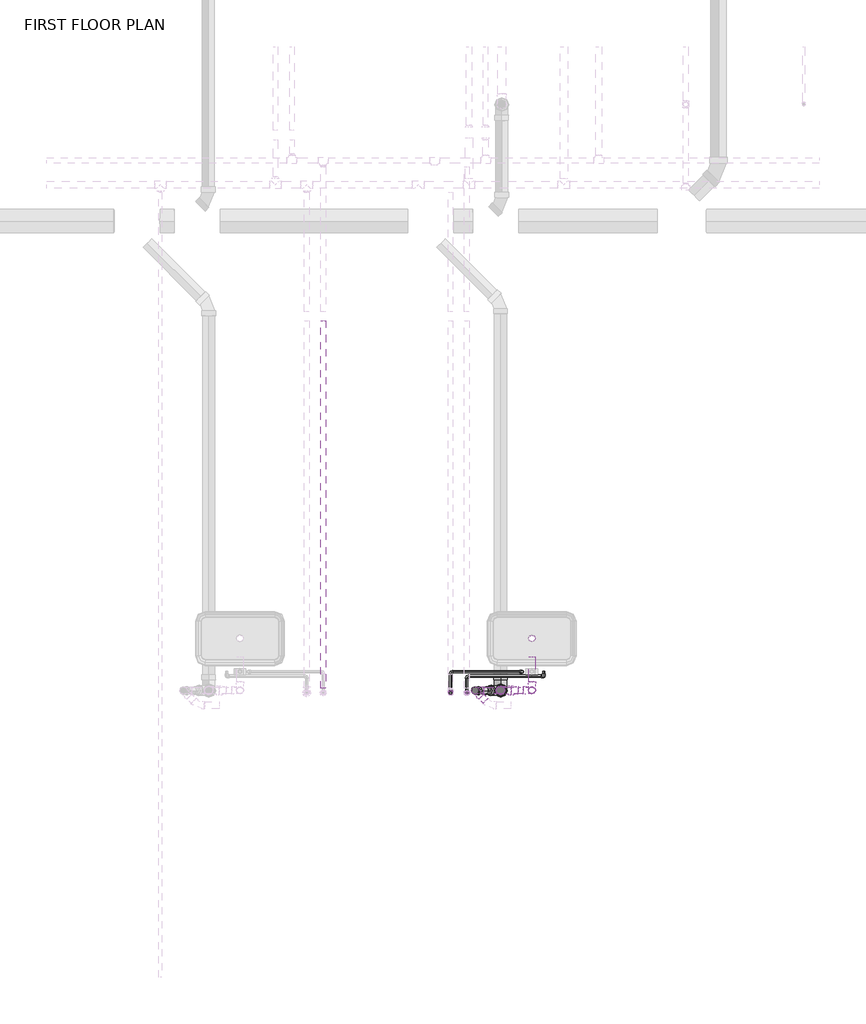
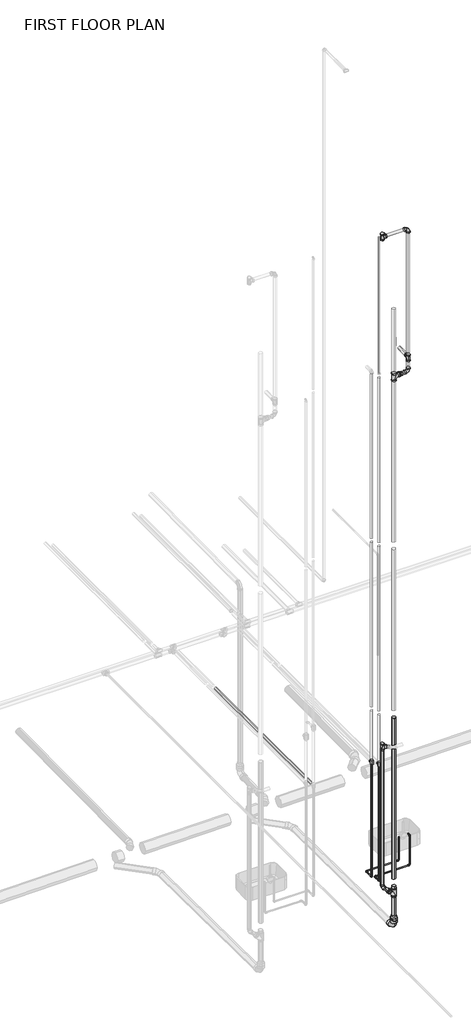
# One storey, part 11 of 29: 32 pipe segments, 23 pipe fittings.
"""IFC4 building model written with IfcOpenShell, lengths in millimetres."""

from ifc_helpers import new_model, si_unit, point, frame, frame_2d, origin, place, context, project, spatial, circle_curve, trimmed, segment, composite_curve, outline, extrude, transform, mapped, element, save
from ifc_brep_helpers import plane_surface, cylinder_surface, advanced_brep
from components import bend_pvc_sch_40_dwv_standard_ddf7f1b2, bend_pvc_sch_40_dwv_standard_80f96eb1, bend_pvc_sch_40_dwv_standard_35af41d9, bend_pvc_sch_40_dwv_standard_07560f8e, ges_wye_45_deg_threaded_mi_class_150_cast_iron_sanitary_c88a242e, pipe_elbow_copper_k_aad62f2d, pipe_elbow_copper_k_69a8f9be, pipe_elbow_copper_k_b9f4c2fc, pipe_tee_copper_k_60c871d1, pipe_transition_copper_k_4b29cc47, pipe_transition_copper_k_2a5e9307, reducer_pvc_sch_40_dwv_standard_b23fa098, reducer_pvc_sch_40_dwv_standard_f8e5081b, tee_sanitary_pvc_sch_40_dwv_standard_63ee02c0, tee_sanitary_pvc_sch_40_dwv_standard_3578d342, tee_sanitary_pvc_sch_40_dwv_standard_31acfb72, tee_sanitary_pvc_sch_40_dwv_standard_70a8f0c3

model = new_model("IFC4")

# Units and contexts
model_context = context("Model", 3, world=origin())
ifc_project = project(units=[si_unit("LENGTHUNIT", "METRE", prefix="MILLI")], contexts=[model_context])

# Site, building, storey
site = spatial("IfcSite", under=ifc_project)
building = spatial("IfcBuilding", under=site)
storey = spatial("IfcBuildingStorey", under=building, Name="FIRST FLOOR PLAN", Elevation=0.0)

# Pipe fittings
placement = place(None, origin())
bend_pvc_sch_40_dwv_standard_shape = bend_pvc_sch_40_dwv_standard_ddf7f1b2(model_context)
element("IfcPipeFitting", 1, ObjectType="Bend - PVC - Sch 40 - DWV : Standard", at=placement, inside=storey, context=model_context, shape_type="MappedRepresentation", body=[
    mapped(bend_pvc_sch_40_dwv_standard_shape, transform((10366.9844048, 2089.9234249, -423.3215767), x_axis=(0.0, 0.0, -1.0), y_axis=(0.0, -1.0, 0.0), z_axis=(-1.0, 0.0, 0.0))),
])
bend_pvc_sch_40_dwv_standard_2_shape = bend_pvc_sch_40_dwv_standard_80f96eb1(model_context)
element("IfcPipeFitting", 2, ObjectType="Bend - PVC - Sch 40 - DWV : Standard", at=placement, inside=storey, context=model_context, shape_type="MappedRepresentation", body=[
    mapped(bend_pvc_sch_40_dwv_standard_2_shape, transform((10595.8916496, 2089.7012881, 8872.178232), x_axis=(0.0, 0.0, -1.0), y_axis=(1.0, 0.0, 0.0), z_axis=(0.0, -1.0, 0.0))),
])
bend_pvc_sch_40_dwv_standard_3_shape = bend_pvc_sch_40_dwv_standard_35af41d9(model_context)
element("IfcPipeFitting", 3, ObjectType="Bend - PVC - Sch 40 - DWV : Standard", at=placement, inside=storey, context=model_context, shape_type="MappedRepresentation", body=[
    mapped(bend_pvc_sch_40_dwv_standard_3_shape, transform((10595.8959875, 2089.7012881, 11280.7857867), x_axis=(0.0, 0.0, 1.0), y_axis=(1.0, 0.0, 0.0), z_axis=(0.0, 1.0, 0.0))),
])
bend_pvc_sch_40_dwv_standard_4_shape = bend_pvc_sch_40_dwv_standard_07560f8e(model_context)
element("IfcPipeFitting", 4, ObjectType="Bend - PVC - Sch 40 - DWV : Standard", at=placement, inside=storey, context=model_context, shape_type="MappedRepresentation", body=[
    mapped(bend_pvc_sch_40_dwv_standard_4_shape, transform((10182.4362142, 2088.8607595, 306.9437062), x_axis=(0.0, 0.0, -1.0), y_axis=(-0.9999896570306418, -0.004548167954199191, 0.0), z_axis=(-0.004548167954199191, 0.9999896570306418, 0.0))),
])
ges_wye_45_deg_threaded_mi_class_150_cast_iron_sanitary_shape = ges_wye_45_deg_threaded_mi_class_150_cast_iron_sanitary_c88a242e(model_context)
element("IfcPipeFitting", 5, ObjectType="GES Wye 45 Deg - Threaded - MI - Class 150 : Cast Iron- Sanitary", at=placement, inside=storey, context=model_context, shape_type="MappedRepresentation", body=[
    mapped(ges_wye_45_deg_threaded_mi_class_150_cast_iron_sanitary_shape, transform((10366.9918451, 2089.8953901, 122.1428758), x_axis=(0.0, 0.0, 1.0), y_axis=(-0.9999896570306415, -0.004548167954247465, 0.0), z_axis=(0.004548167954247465, -0.9999896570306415, 0.0))),
])
pipe_elbow_copper_k_shape = pipe_elbow_copper_k_aad62f2d(model_context)
element("IfcPipeFitting", 6, ObjectType="Pipe Elbow : Copper- K", at=placement, inside=storey, context=model_context, shape_type="MappedRepresentation", body=[
    mapped(pipe_elbow_copper_k_shape, transform((10121.3413377, 2071.7561808, 436.8601562), x_axis=(0.0, 0.0, -1.0), y_axis=(0.0, 1.0, 0.0), z_axis=(1.0, 0.0, 0.0))),
])
element("IfcPipeFitting", 7, ObjectType="Pipe Elbow : Copper- K", at=placement, inside=storey, context=model_context, shape_type="MappedRepresentation", body=[
    mapped(pipe_elbow_copper_k_shape, transform((10121.3413377, 2195.725865, 436.8601562), x_axis=(-1.0, 0.0, 0.0), y_axis=(0.0, -1.0, 0.0), z_axis=(0.0, 0.0, 1.0))),
])
element("IfcPipeFitting", 8, ObjectType="Pipe Elbow : Copper- K", at=placement, inside=storey, context=model_context, shape_type="MappedRepresentation", body=[
    mapped(pipe_elbow_copper_k_shape, transform((10681.01717, 2195.725865, 436.8601562), x_axis=(0.0, 0.0, -1.0), y_axis=(-1.0, 0.0, 0.0), z_axis=(0.0, 1.0, 0.0))),
])
element("IfcPipeFitting", 9, ObjectType="Pipe Elbow : Copper- K", at=placement, inside=storey, context=model_context, shape_type="MappedRepresentation", body=[
    mapped(pipe_elbow_copper_k_shape, transform((10002.1891516, 2227.8137881, 548.67591), x_axis=(-0.9999999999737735, 0.0, -7.242448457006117e-06), y_axis=(0.0, -1.0000000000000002, 0.0), z_axis=(-7.242448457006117e-06, 0.0, 0.9999999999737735))),
])
element("IfcPipeFitting", 10, ObjectType="Pipe Elbow : Copper- K", at=placement, inside=storey, context=model_context, shape_type="MappedRepresentation", body=[
    mapped(pipe_elbow_copper_k_shape, transform((10002.1891516, 2071.7561808, 548.67591), x_axis=(0.0, -1.0, 0.0), y_axis=(0.0, 0.0, 1.0), z_axis=(-1.0, 0.0, 0.0))),
])
pipe_elbow_copper_k_2_shape = pipe_elbow_copper_k_69a8f9be(model_context)
element("IfcPipeFitting", 11, ObjectType="Pipe Elbow : Copper- K", at=placement, inside=storey, context=model_context, shape_type="MappedRepresentation", body=[
    mapped(pipe_elbow_copper_k_2_shape, transform((10681.01717, 2195.725865, 944.8601562), x_axis=(0.0, 0.0, 1.0), y_axis=(0.0, -1.0, 0.0), z_axis=(1.0, 0.0, 0.0))),
])
pipe_elbow_copper_k_3_shape = pipe_elbow_copper_k_b9f4c2fc(model_context)
element("IfcPipeFitting", 12, ObjectType="Pipe Elbow : Copper- K", at=placement, inside=storey, context=model_context, shape_type="MappedRepresentation", body=[
    mapped(pipe_elbow_copper_k_3_shape, transform((10523.7649839, 2227.8137881, 548.6796875), x_axis=(0.0, 0.0, -1.0), y_axis=(1.0, 0.0, 0.0), z_axis=(0.0, -1.0, 0.0))),
])
pipe_tee_copper_k_shape = pipe_tee_copper_k_60c871d1(model_context)
element("IfcPipeFitting", 13, ObjectType="Pipe Tee : Copper- K", at=placement, inside=storey, context=model_context, shape_type="MappedRepresentation", body=[
    mapped(pipe_tee_copper_k_shape, transform((10121.3413377, 2071.7561808, 2413.0), x_axis=(0.0, 0.0, -1.0), y_axis=(0.0, -1.0, 0.0), z_axis=(-1.0, 0.0, 0.0))),
])
element("IfcPipeFitting", 14, ObjectType="Pipe Tee : Copper- K", at=placement, inside=storey, context=model_context, shape_type="MappedRepresentation", body=[
    mapped(pipe_tee_copper_k_shape, transform((10002.1891516, 2071.7561808, 2490.6882812), x_axis=(0.0, 0.0, -1.0), y_axis=(0.0, -1.0, 0.0), z_axis=(-1.0, 0.0, 0.0))),
])
pipe_transition_copper_k_shape = pipe_transition_copper_k_4b29cc47(model_context)
element("IfcPipeFitting", 15, ObjectType="Pipe Transition : Copper- K", at=placement, inside=storey, context=model_context, shape_type="MappedRepresentation", body=[
    mapped(pipe_transition_copper_k_shape, transform((10121.3413377, 2071.7561808, 2379.6625), x_axis=(0.0, 0.0, -1.0), y_axis=(1.0, 0.0, 0.0), z_axis=(0.0, -1.0, 0.0))),
])
pipe_transition_copper_k_2_shape = pipe_transition_copper_k_2a5e9307(model_context)
element("IfcPipeFitting", 16, ObjectType="Pipe Transition : Copper- K", at=placement, inside=storey, context=model_context, shape_type="MappedRepresentation", body=[
    mapped(pipe_transition_copper_k_2_shape, transform((10002.1891516, 2071.7561808, 2452.9851562), x_axis=(0.0, 0.0, 1.0), y_axis=(-1.0, 0.0, 0.0), z_axis=(0.0, -1.0, 0.0))),
])
reducer_pvc_sch_40_dwv_standard_shape = reducer_pvc_sch_40_dwv_standard_b23fa098(model_context)
element("IfcPipeFitting", 17, ObjectType="Reducer - PVC - Sch 40 - DWV : Standard", at=placement, inside=storey, context=model_context, shape_type="MappedRepresentation", body=[
    mapped(reducer_pvc_sch_40_dwv_standard_shape, transform((10445.0334179, 2089.7012881, 8870.6067921), x_axis=(0.9999457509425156, 0.0, 0.010416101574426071), y_axis=(0.0, 1.0000000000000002, 0.0), z_axis=(-0.010416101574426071, 0.0, 0.9999457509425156))),
])
element("IfcPipeFitting", 18, ObjectType="Reducer - PVC - Sch 40 - DWV : Standard", at=placement, inside=storey, context=model_context, shape_type="MappedRepresentation", body=[
    mapped(reducer_pvc_sch_40_dwv_standard_shape, transform((10295.4026702, 2089.3745552, 193.9792248), x_axis=(-0.7071093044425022, -0.0032160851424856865, 0.7070969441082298), y_axis=(0.004548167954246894, -0.9999896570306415, 0.0), z_axis=(0.7070896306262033, 0.003215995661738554, 0.7071166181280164))),
])
reducer_pvc_sch_40_dwv_standard_2_shape = reducer_pvc_sch_40_dwv_standard_f8e5081b(model_context)
element("IfcPipeFitting", 19, ObjectType="Reducer - PVC - Sch 40 - DWV : Standard", at=placement, inside=storey, context=model_context, shape_type="MappedRepresentation", body=[
    mapped(reducer_pvc_sch_40_dwv_standard_2_shape, transform((10366.9844048, 2089.9234249, -307.4213767), x_axis=(0.0, 0.0, 1.0), y_axis=(0.0, -1.0, 0.0), z_axis=(1.0, 0.0, 0.0))),
])
tee_sanitary_pvc_sch_40_dwv_standard_shape = tee_sanitary_pvc_sch_40_dwv_standard_63ee02c0(model_context)
element("IfcPipeFitting", 20, ObjectType="Tee Sanitary - PVC - Sch 40 - DWV : Standard", at=placement, inside=storey, context=model_context, shape_type="MappedRepresentation", body=[
    mapped(tee_sanitary_pvc_sch_40_dwv_standard_shape, transform((10366.9918451, 2089.8953901, 8869.5241105), x_axis=(0.0, 0.0, 1.0), y_axis=(1.0, 0.0, 0.0), z_axis=(0.0, 1.0, 0.0))),
])
tee_sanitary_pvc_sch_40_dwv_standard_2_shape = tee_sanitary_pvc_sch_40_dwv_standard_3578d342(model_context)
element("IfcPipeFitting", 21, ObjectType="Tee Sanitary - PVC - Sch 40 - DWV : Standard", at=placement, inside=storey, context=model_context, shape_type="MappedRepresentation", body=[
    mapped(tee_sanitary_pvc_sch_40_dwv_standard_2_shape, transform((10595.8959875, 2089.7012881, 9112.4170389), x_axis=(0.0, 0.0, 1.0), y_axis=(0.0, 1.0, 0.0), z_axis=(-1.0, 0.0, 0.0))),
])
tee_sanitary_pvc_sch_40_dwv_standard_3_shape = tee_sanitary_pvc_sch_40_dwv_standard_31acfb72(model_context)
element("IfcPipeFitting", 22, ObjectType="Tee Sanitary - PVC - Sch 40 - DWV : Standard", at=placement, inside=storey, context=model_context, shape_type="MappedRepresentation", body=[
    mapped(tee_sanitary_pvc_sch_40_dwv_standard_3_shape, transform((10182.4361988, 2088.8641446, 2687.3998234), x_axis=(0.0, 0.0, 1.0), y_axis=(0.7098586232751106, -0.7043441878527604, 0.0), z_axis=(0.7043441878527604, 0.7098586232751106, 0.0))),
])
tee_sanitary_pvc_sch_40_dwv_standard_4_shape = tee_sanitary_pvc_sch_40_dwv_standard_70a8f0c3(model_context)
element("IfcPipeFitting", 23, ObjectType="Tee Sanitary - PVC - Sch 40 - DWV : Standard", at=placement, inside=storey, context=model_context, shape_type="MappedRepresentation", body=[
    mapped(tee_sanitary_pvc_sch_40_dwv_standard_4_shape, transform((10182.4361988, 2088.8641446, 11280.7857867), x_axis=(0.0, 0.0, -1.0), y_axis=(0.9999958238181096, 0.0028900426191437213, 0.0), z_axis=(0.0028900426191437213, -0.9999958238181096, 0.0))),
])

# Pipe segments
element("IfcPipeSegment", 24, ObjectType="Copper", at=placement, inside=storey, context=model_context, shape_type="SweptSolid", body=[
    extrude(outline(composite_curve([segment(trimmed(circle_curve(frame_2d((2413.0, 9073.5913377)), 17.4625), [point((2413.0, 9056.1288377))], [point((2395.5375, 9073.5913377))], False, "CARTESIAN"), True, "CONTINUOUS"), segment(trimmed(circle_curve(frame_2d((2413.0, 9073.5913377)), 17.4625), [point((2395.5375, 9073.5913377))], [point((2413.0, 9091.0538377))], False, "CARTESIAN"), True, "CONTINUOUS"), segment(trimmed(circle_curve(frame_2d((2413.0, 9073.5913377)), 17.4625), [point((2413.0, 9091.0538377))], [point((2430.4625, 9073.5913377))], False, "CARTESIAN"), True, "CONTINUOUS"), segment(trimmed(circle_curve(frame_2d((2413.0, 9073.5913377)), 17.4625), [point((2430.4625, 9073.5913377))], [point((2413.0, 9056.1288377))], False, "CARTESIAN"), True, "CONTINUOUS")], self_intersect=False)), frame((0.0, 2105.0936808, 0.0), z_axis=(0.0, 1.0, 0.0), x_axis=(0.0, 0.0, 1.0)), (0.0, 0.0, 1.0), 2680.7102322),
])
element("IfcPipeSegment", 25, ObjectType="Copper", at=placement, inside=storey, context=model_context, shape_type="SweptSolid", body=[
    extrude(outline(composite_curve([segment(trimmed(circle_curve(frame_2d((10121.3413377, 2071.7561808)), 11.1125), [point((10132.4538377, 2071.7561808))], [point((10121.3413377, 2060.6436808))], False, "CARTESIAN"), True, "CONTINUOUS"), segment(trimmed(circle_curve(frame_2d((10121.3413377, 2071.7561808)), 11.1125), [point((10121.3413377, 2060.6436808))], [point((10110.2288377, 2071.7561808))], False, "CARTESIAN"), True, "CONTINUOUS"), segment(trimmed(circle_curve(frame_2d((10121.3413377, 2071.7561808)), 11.1125), [point((10110.2288377, 2071.7561808))], [point((10121.3413377, 2082.8686808))], False, "CARTESIAN"), True, "CONTINUOUS"), segment(trimmed(circle_curve(frame_2d((10121.3413377, 2071.7561808)), 11.1125), [point((10121.3413377, 2082.8686808))], [point((10132.4538377, 2071.7561808))], False, "CARTESIAN"), True, "CONTINUOUS")], self_intersect=False)), frame((0.0, 0.0, 9008.9632812), z_axis=(0.0, 0.0, 1.0), x_axis=(1.0, 0.0, 0.0)), (0.0, 0.0, 1.0), 2299.1960937),
])
element("IfcPipeSegment", 26, ObjectType="Copper", at=placement, inside=storey, context=model_context, shape_type="SweptSolid", body=[
    extrude(outline(composite_curve([segment(trimmed(circle_curve(frame_2d((10002.1891516, 2071.7561808)), 17.4625), [point((10019.6516516, 2071.7561808))], [point((10002.1891516, 2054.2936808))], False, "CARTESIAN"), True, "CONTINUOUS"), segment(trimmed(circle_curve(frame_2d((10002.1891516, 2071.7561808)), 17.4625), [point((10002.1891516, 2054.2936808))], [point((9984.7266516, 2071.7561808))], False, "CARTESIAN"), True, "CONTINUOUS"), segment(trimmed(circle_curve(frame_2d((10002.1891516, 2071.7561808)), 17.4625), [point((9984.7266516, 2071.7561808))], [point((10002.1891516, 2089.2186808))], False, "CARTESIAN"), True, "CONTINUOUS"), segment(trimmed(circle_curve(frame_2d((10002.1891516, 2071.7561808)), 17.4625), [point((10002.1891516, 2089.2186808))], [point((10019.6516516, 2071.7561808))], False, "CARTESIAN"), True, "CONTINUOUS")], self_intersect=False)), frame((0.0, 0.0, 6271.61341), z_axis=(0.0, 0.0, 1.0), x_axis=(1.0, 0.0, 0.0)), (0.0, 0.0, 1.0), 2784.475),
])
element("IfcPipeSegment", 27, ObjectType="Copper", at=placement, inside=storey, context=model_context, shape_type="SweptSolid", body=[
    extrude(outline(composite_curve([segment(trimmed(circle_curve(frame_2d((10121.3413377, 2071.7561808)), 7.9375), [point((10129.2788377, 2071.7561808))], [point((10121.3413377, 2063.8186808))], False, "CARTESIAN"), True, "CONTINUOUS"), segment(trimmed(circle_curve(frame_2d((10121.3413377, 2071.7561808)), 7.9375), [point((10121.3413377, 2063.8186808))], [point((10113.4038377, 2071.7561808))], False, "CARTESIAN"), True, "CONTINUOUS"), segment(trimmed(circle_curve(frame_2d((10121.3413377, 2071.7561808)), 7.9375), [point((10113.4038377, 2071.7561808))], [point((10121.3413377, 2079.6936808))], False, "CARTESIAN"), True, "CONTINUOUS"), segment(trimmed(circle_curve(frame_2d((10121.3413377, 2071.7561808)), 7.9375), [point((10121.3413377, 2079.6936808))], [point((10129.2788377, 2071.7561808))], False, "CARTESIAN"), True, "CONTINUOUS")], self_intersect=False)), frame((0.0, 0.0, 454.3226562), z_axis=(0.0, 0.0, 1.0), x_axis=(1.0, 0.0, 0.0)), (0.0, 0.0, 1.0), 1916.6085937),
])
element("IfcPipeSegment", 28, ObjectType="Copper", at=placement, inside=storey, context=model_context, shape_type="SweptSolid", body=[
    extrude(outline(composite_curve([segment(trimmed(circle_curve(frame_2d((10002.1891516, 2071.7561808)), 7.9375), [point((9994.2516516, 2071.7561808))], [point((10002.1891516, 2079.6936808))], False, "CARTESIAN"), True, "CONTINUOUS"), segment(trimmed(circle_curve(frame_2d((10002.1891516, 2071.7561808)), 7.9375), [point((10002.1891516, 2079.6936808))], [point((10010.1266516, 2071.7561808))], False, "CARTESIAN"), True, "CONTINUOUS"), segment(trimmed(circle_curve(frame_2d((10002.1891516, 2071.7561808)), 7.9375), [point((10010.1266516, 2071.7561808))], [point((10002.1891516, 2063.8186808))], False, "CARTESIAN"), True, "CONTINUOUS"), segment(trimmed(circle_curve(frame_2d((10002.1891516, 2071.7561808)), 7.9375), [point((10002.1891516, 2063.8186808))], [point((9994.2516516, 2071.7561808))], False, "CARTESIAN"), True, "CONTINUOUS")], self_intersect=False)), frame((0.0, 0.0, 566.13841), z_axis=(0.0, 0.0, 1.0), x_axis=(1.0, 0.0, 0.0)), (0.0, 0.0, 1.0), 1886.8467462),
])
element("IfcPipeSegment", 29, ObjectType="Copper", at=placement, inside=storey, context=model_context, shape_type="SweptSolid", body=[
    extrude(outline(composite_curve([segment(trimmed(circle_curve(frame_2d((944.8601562, 10681.01717)), 7.9375), [point((944.8601562, 10688.95467))], [point((952.7976562, 10681.01717))], False, "CARTESIAN"), True, "CONTINUOUS"), segment(trimmed(circle_curve(frame_2d((944.8601562, 10681.01717)), 7.9375), [point((952.7976562, 10681.01717))], [point((944.8601562, 10673.07967))], False, "CARTESIAN"), True, "CONTINUOUS"), segment(trimmed(circle_curve(frame_2d((944.8601562, 10681.01717)), 7.9375), [point((944.8601562, 10673.07967))], [point((936.9226562, 10681.01717))], False, "CARTESIAN"), True, "CONTINUOUS"), segment(trimmed(circle_curve(frame_2d((944.8601562, 10681.01717)), 7.9375), [point((936.9226562, 10681.01717))], [point((944.8601562, 10688.95467))], False, "CARTESIAN"), True, "CONTINUOUS")], self_intersect=False)), frame((0.0, 2213.188365, 0.0), z_axis=(0.0, 1.0, 0.0), x_axis=(0.0, 0.0, 1.0)), (0.0, 0.0, 1.0), 17.3178158),
])
element("IfcPipeSegment", 30, ObjectType="Copper", at=placement, inside=storey, context=model_context, shape_type="SweptSolid", body=[
    extrude(outline(composite_curve([segment(trimmed(circle_curve(frame_2d((0.0, 7.9375)), 7.9375), [point((-7.9375, 7.9375))], [point((0.0, 15.875))], False, "CARTESIAN"), True, "CONTINUOUS"), segment(trimmed(circle_curve(frame_2d((0.0, 7.9375)), 7.9375), [point((0.0, 15.875))], [point((7.9375, 7.9375))], False, "CARTESIAN"), True, "CONTINUOUS"), segment(trimmed(circle_curve(frame_2d((0.0, 7.9375)), 7.9375), [point((7.9375, 7.9375))], [point((0.0, 0.0))], False, "CARTESIAN"), True, "CONTINUOUS"), segment(trimmed(circle_curve(frame_2d((0.0, 7.9375)), 7.9375), [point((0.0, 0.0))], [point((-7.9375, 7.9375))], False, "CARTESIAN"), True, "CONTINUOUS")], self_intersect=False)), frame((10019.6517091, 2227.8137881, 540.7385365), z_axis=(0.9999999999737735, 0.0, 7.242448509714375e-06), x_axis=(0.0, 1.0, 0.0)), (0.0, 0.0, 1.0), 486.6509587),
])
element("IfcPipeSegment", 31, ObjectType="Copper", at=placement, inside=storey, context=model_context, shape_type="SweptSolid", body=[
    extrude(outline(composite_curve([segment(trimmed(circle_curve(frame_2d((10523.7649839, 2227.8137881)), 7.9375), [point((10515.8274839, 2227.8137881))], [point((10523.7649839, 2235.7512881))], False, "CARTESIAN"), True, "CONTINUOUS"), segment(trimmed(circle_curve(frame_2d((10523.7649839, 2227.8137881)), 7.9375), [point((10523.7649839, 2235.7512881))], [point((10531.7024839, 2227.8137881))], False, "CARTESIAN"), True, "CONTINUOUS"), segment(trimmed(circle_curve(frame_2d((10523.7649839, 2227.8137881)), 7.9375), [point((10531.7024839, 2227.8137881))], [point((10523.7649839, 2219.8762881))], False, "CARTESIAN"), True, "CONTINUOUS"), segment(trimmed(circle_curve(frame_2d((10523.7649839, 2227.8137881)), 7.9375), [point((10523.7649839, 2219.8762881))], [point((10515.8274839, 2227.8137881))], False, "CARTESIAN"), True, "CONTINUOUS")], self_intersect=False)), frame((0.0, 0.0, 566.142061), z_axis=(0.0, 0.0, 1.0), x_axis=(1.0, 0.0, 0.0)), (0.0, 0.0, 1.0), 378.7180952),
])
element("IfcPipeSegment", 32, ObjectType="Copper", at=placement, inside=storey, context=model_context, shape_type="SweptSolid", body=[
    extrude(outline(composite_curve([segment(trimmed(circle_curve(frame_2d((2195.725865, 436.8601562)), 7.9375), [point((2187.788365, 436.8601562))], [point((2195.725865, 444.7976562))], False, "CARTESIAN"), True, "CONTINUOUS"), segment(trimmed(circle_curve(frame_2d((2195.725865, 436.8601562)), 7.9375), [point((2195.725865, 444.7976562))], [point((2203.663365, 436.8601562))], False, "CARTESIAN"), True, "CONTINUOUS"), segment(trimmed(circle_curve(frame_2d((2195.725865, 436.8601562)), 7.9375), [point((2203.663365, 436.8601562))], [point((2195.725865, 428.9226562))], False, "CARTESIAN"), True, "CONTINUOUS"), segment(trimmed(circle_curve(frame_2d((2195.725865, 436.8601562)), 7.9375), [point((2195.725865, 428.9226562))], [point((2187.788365, 436.8601562))], False, "CARTESIAN"), True, "CONTINUOUS")], self_intersect=False)), frame((10138.8038377, 0.0, 0.0), z_axis=(1.0, 0.0, 0.0), x_axis=(0.0, 1.0, 0.0)), (0.0, 0.0, 1.0), 524.7508323),
])
element("IfcPipeSegment", 33, ObjectType="Copper", at=placement, inside=storey, context=model_context, shape_type="SweptSolid", body=[
    extrude(outline(composite_curve([segment(trimmed(circle_curve(frame_2d((10681.01717, 2195.725865)), 7.9375), [point((10673.07967, 2195.725865))], [point((10681.01717, 2203.663365))], False, "CARTESIAN"), True, "CONTINUOUS"), segment(trimmed(circle_curve(frame_2d((10681.01717, 2195.725865)), 7.9375), [point((10681.01717, 2203.663365))], [point((10688.95467, 2195.725865))], False, "CARTESIAN"), True, "CONTINUOUS"), segment(trimmed(circle_curve(frame_2d((10681.01717, 2195.725865)), 7.9375), [point((10688.95467, 2195.725865))], [point((10681.01717, 2187.788365))], False, "CARTESIAN"), True, "CONTINUOUS"), segment(trimmed(circle_curve(frame_2d((10681.01717, 2195.725865)), 7.9375), [point((10681.01717, 2187.788365))], [point((10673.07967, 2195.725865))], False, "CARTESIAN"), True, "CONTINUOUS")], self_intersect=False)), frame((0.0, 0.0, 454.3226562), z_axis=(0.0, 0.0, 1.0), x_axis=(1.0, 0.0, 0.0)), (0.0, 0.0, 1.0), 473.075),
])
element("IfcPipeSegment", 34, ObjectType="Copper", at=placement, inside=storey, context=model_context, shape_type="SweptSolid", body=[
    extrude(outline(composite_curve([segment(trimmed(circle_curve(frame_2d((436.8601562, 10121.3413377)), 7.9375), [point((436.8601562, 10129.2788377))], [point((444.7976562, 10121.3413377))], False, "CARTESIAN"), True, "CONTINUOUS"), segment(trimmed(circle_curve(frame_2d((436.8601562, 10121.3413377)), 7.9375), [point((444.7976562, 10121.3413377))], [point((436.8601562, 10113.4038377))], False, "CARTESIAN"), True, "CONTINUOUS"), segment(trimmed(circle_curve(frame_2d((436.8601562, 10121.3413377)), 7.9375), [point((436.8601562, 10113.4038377))], [point((428.9226562, 10121.3413377))], False, "CARTESIAN"), True, "CONTINUOUS"), segment(trimmed(circle_curve(frame_2d((436.8601562, 10121.3413377)), 7.9375), [point((428.9226562, 10121.3413377))], [point((436.8601562, 10129.2788377))], False, "CARTESIAN"), True, "CONTINUOUS")], self_intersect=False)), frame((0.0, 2089.2186808, 0.0), z_axis=(0.0, 1.0, 0.0), x_axis=(0.0, 0.0, 1.0)), (0.0, 0.0, 1.0), 89.0446842),
])
element("IfcPipeSegment", 35, ObjectType="Copper", at=placement, inside=storey, context=model_context, shape_type="SweptSolid", body=[
    extrude(outline(composite_curve([segment(trimmed(circle_curve(frame_2d((548.67591, 10002.1891516)), 7.9375), [point((548.67591, 9994.2516516))], [point((540.73841, 10002.1891516))], False, "CARTESIAN"), True, "CONTINUOUS"), segment(trimmed(circle_curve(frame_2d((548.67591, 10002.1891516)), 7.9375), [point((540.73841, 10002.1891516))], [point((548.67591, 10010.1266516))], False, "CARTESIAN"), True, "CONTINUOUS"), segment(trimmed(circle_curve(frame_2d((548.67591, 10002.1891516)), 7.9375), [point((548.67591, 10010.1266516))], [point((556.61341, 10002.1891516))], False, "CARTESIAN"), True, "CONTINUOUS"), segment(trimmed(circle_curve(frame_2d((548.67591, 10002.1891516)), 7.9375), [point((556.61341, 10002.1891516))], [point((548.67591, 9994.2516516))], False, "CARTESIAN"), True, "CONTINUOUS")], self_intersect=False)), frame((0.0, 2089.2186808, 0.0), z_axis=(0.0, 1.0, 0.0), x_axis=(0.0, 0.0, 1.0)), (0.0, 0.0, 1.0), 121.1326072),
])
element("IfcPipeSegment", 36, ObjectType="Copper", at=placement, inside=storey, context=model_context, shape_type="SweptSolid", body=[
    extrude(outline(composite_curve([segment(trimmed(circle_curve(frame_2d((10121.3413377, 2071.7561808)), 17.4625), [point((10103.8788377, 2071.7561808))], [point((10121.3413377, 2089.2186808))], False, "CARTESIAN"), True, "CONTINUOUS"), segment(trimmed(circle_curve(frame_2d((10121.3413377, 2071.7561808)), 17.4625), [point((10121.3413377, 2089.2186808))], [point((10138.8038377, 2071.7561808))], False, "CARTESIAN"), True, "CONTINUOUS"), segment(trimmed(circle_curve(frame_2d((10121.3413377, 2071.7561808)), 17.4625), [point((10138.8038377, 2071.7561808))], [point((10121.3413377, 2054.2936808))], False, "CARTESIAN"), True, "CONTINUOUS"), segment(trimmed(circle_curve(frame_2d((10121.3413377, 2071.7561808)), 17.4625), [point((10121.3413377, 2054.2936808))], [point((10103.8788377, 2071.7561808))], False, "CARTESIAN"), True, "CONTINUOUS")], self_intersect=False)), frame((0.0, 0.0, 2446.3375), z_axis=(0.0, 0.0, 1.0), x_axis=(1.0, 0.0, 0.0)), (0.0, 0.0, 1.0), 801.9851562),
])
element("IfcPipeSegment", 37, ObjectType="Copper", at=placement, inside=storey, context=model_context, shape_type="SweptSolid", body=[
    extrude(outline(composite_curve([segment(trimmed(circle_curve(frame_2d((10002.1891516, 2071.7561808)), 17.4625), [point((9984.7266516, 2071.7561808))], [point((10002.1891516, 2089.2186808))], False, "CARTESIAN"), True, "CONTINUOUS"), segment(trimmed(circle_curve(frame_2d((10002.1891516, 2071.7561808)), 17.4625), [point((10002.1891516, 2089.2186808))], [point((10019.6516516, 2071.7561808))], False, "CARTESIAN"), True, "CONTINUOUS"), segment(trimmed(circle_curve(frame_2d((10002.1891516, 2071.7561808)), 17.4625), [point((10019.6516516, 2071.7561808))], [point((10002.1891516, 2054.2936808))], False, "CARTESIAN"), True, "CONTINUOUS"), segment(trimmed(circle_curve(frame_2d((10002.1891516, 2071.7561808)), 17.4625), [point((10002.1891516, 2054.2936808))], [point((9984.7266516, 2071.7561808))], False, "CARTESIAN"), True, "CONTINUOUS")], self_intersect=False)), frame((0.0, 0.0, 2524.0257812), z_axis=(0.0, 0.0, 1.0), x_axis=(1.0, 0.0, 0.0)), (0.0, 0.0, 1.0), 836.1126288),
])
element("IfcPipeSegment", 38, ObjectType="Copper", at=placement, inside=storey, context=model_context, shape_type="SweptSolid", body=[
    extrude(outline(composite_curve([segment(trimmed(circle_curve(frame_2d((10121.3413377, 2071.7561808)), 17.4625), [point((10103.8788377, 2071.7561808))], [point((10121.3413377, 2089.2186808))], False, "CARTESIAN"), True, "CONTINUOUS"), segment(trimmed(circle_curve(frame_2d((10121.3413377, 2071.7561808)), 17.4625), [point((10121.3413377, 2089.2186808))], [point((10138.8038377, 2071.7561808))], False, "CARTESIAN"), True, "CONTINUOUS"), segment(trimmed(circle_curve(frame_2d((10121.3413377, 2071.7561808)), 17.4625), [point((10138.8038377, 2071.7561808))], [point((10121.3413377, 2054.2936808))], False, "CARTESIAN"), True, "CONTINUOUS"), segment(trimmed(circle_curve(frame_2d((10121.3413377, 2071.7561808)), 17.4625), [point((10121.3413377, 2054.2936808))], [point((10103.8788377, 2071.7561808))], False, "CARTESIAN"), True, "CONTINUOUS")], self_intersect=False)), frame((0.0, 0.0, 3314.9976562), z_axis=(0.0, 0.0, 1.0), x_axis=(1.0, 0.0, 0.0)), (0.0, 0.0, 1.0), 2778.125),
])
element("IfcPipeSegment", 39, ObjectType="Copper", at=placement, inside=storey, context=model_context, shape_type="SweptSolid", body=[
    extrude(outline(composite_curve([segment(trimmed(circle_curve(frame_2d((10002.1891516, 2071.7561808)), 17.4625), [point((9984.7266516, 2071.7561808))], [point((10002.1891516, 2089.2186808))], False, "CARTESIAN"), True, "CONTINUOUS"), segment(trimmed(circle_curve(frame_2d((10002.1891516, 2071.7561808)), 17.4625), [point((10002.1891516, 2089.2186808))], [point((10019.6516516, 2071.7561808))], False, "CARTESIAN"), True, "CONTINUOUS"), segment(trimmed(circle_curve(frame_2d((10002.1891516, 2071.7561808)), 17.4625), [point((10019.6516516, 2071.7561808))], [point((10002.1891516, 2054.2936808))], False, "CARTESIAN"), True, "CONTINUOUS"), segment(trimmed(circle_curve(frame_2d((10002.1891516, 2071.7561808)), 17.4625), [point((10002.1891516, 2054.2936808))], [point((9984.7266516, 2071.7561808))], False, "CARTESIAN"), True, "CONTINUOUS")], self_intersect=False)), frame((0.0, 0.0, 3426.81341), z_axis=(0.0, 0.0, 1.0), x_axis=(1.0, 0.0, 0.0)), (0.0, 0.0, 1.0), 2778.125),
])
element("IfcPipeSegment", 40, ObjectType="Copper", at=placement, inside=storey, context=model_context, shape_type="SweptSolid", body=[
    extrude(outline(composite_curve([segment(trimmed(circle_curve(frame_2d((10121.3413377, 2071.7561808)), 17.4625), [point((10103.8788377, 2071.7561808))], [point((10121.3413377, 2089.2186808))], False, "CARTESIAN"), True, "CONTINUOUS"), segment(trimmed(circle_curve(frame_2d((10121.3413377, 2071.7561808)), 17.4625), [point((10121.3413377, 2089.2186808))], [point((10138.8038377, 2071.7561808))], False, "CARTESIAN"), True, "CONTINUOUS"), segment(trimmed(circle_curve(frame_2d((10121.3413377, 2071.7561808)), 17.4625), [point((10138.8038377, 2071.7561808))], [point((10121.3413377, 2054.2936808))], False, "CARTESIAN"), True, "CONTINUOUS"), segment(trimmed(circle_curve(frame_2d((10121.3413377, 2071.7561808)), 17.4625), [point((10121.3413377, 2054.2936808))], [point((10103.8788377, 2071.7561808))], False, "CARTESIAN"), True, "CONTINUOUS")], self_intersect=False)), frame((0.0, 0.0, 6159.7976563), z_axis=(0.0, 0.0, 1.0), x_axis=(1.0, 0.0, 0.0)), (0.0, 0.0, 1.0), 2778.125),
])
element("IfcPipeSegment", 41, ObjectType="PVC - SAN/STORM", at=placement, inside=storey, context=model_context, shape_type="SweptSolid", body=[
    extrude(outline(composite_curve([segment(trimmed(circle_curve(frame_2d((10366.9918451, 2089.8953901)), 30.1625), [point((10336.8293451, 2089.8953901))], [point((10366.9918451, 2120.0578901))], False, "CARTESIAN"), True, "CONTINUOUS"), segment(trimmed(circle_curve(frame_2d((10366.9918451, 2089.8953901)), 30.1625), [point((10366.9918451, 2120.0578901))], [point((10397.1543451, 2089.8953901))], False, "CARTESIAN"), True, "CONTINUOUS"), segment(trimmed(circle_curve(frame_2d((10366.9918451, 2089.8953901)), 30.1625), [point((10397.1543451, 2089.8953901))], [point((10366.9918451, 2059.7328901))], False, "CARTESIAN"), True, "CONTINUOUS"), segment(trimmed(circle_curve(frame_2d((10366.9918451, 2089.8953901)), 30.1625), [point((10366.9918451, 2059.7328901))], [point((10336.8293451, 2089.8953901))], False, "CARTESIAN"), True, "CONTINUOUS")], self_intersect=False)), frame((0.0, 0.0, 8923.499597), z_axis=(0.0, 0.0, 1.0), x_axis=(1.0, 0.0, 0.0)), (0.0, 0.0, 1.0), 1081.0924419),
])
element("IfcPipeSegment", 42, ObjectType="PVC - SAN/STORM", at=placement, inside=storey, context=model_context, shape_type="SweptSolid", body=[
    extrude(outline(composite_curve([segment(trimmed(circle_curve(frame_2d((0.0, -24.13)), 24.13), [point((-24.13, -24.13))], [point((0.0, 0.0))], False, "CARTESIAN"), True, "CONTINUOUS"), segment(trimmed(circle_curve(frame_2d((0.0, -24.13)), 24.13), [point((0.0, 0.0))], [point((24.13, -24.13))], False, "CARTESIAN"), True, "CONTINUOUS"), segment(trimmed(circle_curve(frame_2d((0.0, -24.13)), 24.13), [point((24.13, -24.13))], [point((0.0, -48.2600001))], False, "CARTESIAN"), True, "CONTINUOUS"), segment(trimmed(circle_curve(frame_2d((0.0, -24.13)), 24.13), [point((0.0, -48.2600001))], [point((-24.13, -24.13))], False, "CARTESIAN"), True, "CONTINUOUS")], self_intersect=False)), frame((10595.8959875, 2151.8490706, 9088.9331025), z_axis=(0.0, 0.9999457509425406, 0.010416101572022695), x_axis=(1.0, 0.0, 0.0)), (0.0, 0.0, 1.0), 182.6011639),
])
element("IfcPipeSegment", 43, ObjectType="PVC - SAN/STORM", at=placement, inside=storey, context=model_context, shape_type="SweptSolid", body=[
    extrude(outline(composite_curve([segment(trimmed(circle_curve(frame_2d((10595.8959875, 2469.1137881)), 24.13), [point((10571.7659875, 2469.1137881))], [point((10595.8959875, 2493.2437881))], False, "CARTESIAN"), True, "CONTINUOUS"), segment(trimmed(circle_curve(frame_2d((10595.8959875, 2469.1137881)), 24.13), [point((10595.8959875, 2493.2437881))], [point((10620.0259875, 2469.1137881))], False, "CARTESIAN"), True, "CONTINUOUS"), segment(trimmed(circle_curve(frame_2d((10595.8959875, 2469.1137881)), 24.13), [point((10620.0259875, 2469.1137881))], [point((10595.8959875, 2444.9837881))], False, "CARTESIAN"), True, "CONTINUOUS"), segment(trimmed(circle_curve(frame_2d((10595.8959875, 2469.1137881)), 24.13), [point((10595.8959875, 2444.9837881))], [point((10571.7659875, 2469.1137881))], False, "CARTESIAN"), True, "CONTINUOUS")], self_intersect=False)), frame((0.0, 0.0, 9070.5010858), z_axis=(0.0, 0.0, 1.0), x_axis=(1.0, 0.0, 0.0)), (0.0, 0.0, 1.0), 139.7),
])
element("IfcPipeSegment", 44, ObjectType="PVC - SAN/STORM", at=placement, inside=storey, context=model_context, shape_type="SweptSolid", body=[
    extrude(outline(composite_curve([segment(trimmed(circle_curve(frame_2d((0.0, 24.13)), 24.13), [point((0.0, 0.0))], [point((-24.13, 24.13))], False, "CARTESIAN"), True, "CONTINUOUS"), segment(trimmed(circle_curve(frame_2d((0.0, 24.13)), 24.13), [point((-24.13, 24.13))], [point((0.0, 48.26))], False, "CARTESIAN"), True, "CONTINUOUS"), segment(trimmed(circle_curve(frame_2d((0.0, 24.13)), 24.13), [point((0.0, 48.26))], [point((24.1299999, 24.13))], False, "CARTESIAN"), True, "CONTINUOUS"), segment(trimmed(circle_curve(frame_2d((0.0, 24.13)), 24.13), [point((24.1299999, 24.13))], [point((0.0, 0.0))], False, "CARTESIAN"), True, "CONTINUOUS")], self_intersect=False)), frame((10495.0179061, 2065.5712881, 8871.1274638), z_axis=(0.9999457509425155, 0.0, 0.010416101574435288), x_axis=(0.010416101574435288, 0.0, -0.9999457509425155)), (0.0, 0.0, 1.0), 38.9794161),
])
element("IfcPipeSegment", 45, ObjectType="PVC - SAN/STORM", at=placement, inside=storey, context=model_context, shape_type="SweptSolid", body=[
    extrude(outline(composite_curve([segment(trimmed(circle_curve(frame_2d((0.0, -24.13)), 24.13), [point((-24.1299999, -24.13))], [point((0.0, 0.0))], False, "CARTESIAN"), True, "CONTINUOUS"), segment(trimmed(circle_curve(frame_2d((0.0, -24.13)), 24.13), [point((0.0, 0.0))], [point((24.13, -24.13))], False, "CARTESIAN"), True, "CONTINUOUS"), segment(trimmed(circle_curve(frame_2d((0.0, -24.13)), 24.13), [point((24.13, -24.13))], [point((0.0, -48.26))], False, "CARTESIAN"), True, "CONTINUOUS"), segment(trimmed(circle_curve(frame_2d((0.0, -24.13)), 24.13), [point((0.0, -48.26))], [point((-24.1299999, -24.13))], False, "CARTESIAN"), True, "CONTINUOUS")], self_intersect=False)), frame((10595.8916496, 2065.5712881, 8934.078032), z_axis=(3.72546400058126e-05, 0.0, 0.999999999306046), x_axis=(-0.999999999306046, 0.0, 3.72546400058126e-05)), (0.0, 0.0, 1.0), 116.439207),
])
element("IfcPipeSegment", 46, ObjectType="PVC - SAN/STORM", at=placement, inside=storey, context=model_context, shape_type="SweptSolid", body=[
    extrude(outline(composite_curve([segment(trimmed(circle_curve(frame_2d((10366.9918451, 2089.8953901)), 30.1625), [point((10336.8293451, 2089.8953901))], [point((10366.9918451, 2120.0578901))], False, "CARTESIAN"), True, "CONTINUOUS"), segment(trimmed(circle_curve(frame_2d((10366.9918451, 2089.8953901)), 30.1625), [point((10366.9918451, 2120.0578901))], [point((10397.1543451, 2089.8953901))], False, "CARTESIAN"), True, "CONTINUOUS"), segment(trimmed(circle_curve(frame_2d((10366.9918451, 2089.8953901)), 30.1625), [point((10397.1543451, 2089.8953901))], [point((10366.9918451, 2059.7328901))], False, "CARTESIAN"), True, "CONTINUOUS"), segment(trimmed(circle_curve(frame_2d((10366.9918451, 2089.8953901)), 30.1625), [point((10366.9918451, 2059.7328901))], [point((10336.8293451, 2089.8953901))], False, "CARTESIAN"), True, "CONTINUOUS")], self_intersect=False)), frame((0.0, 0.0, 6080.9367935), z_axis=(0.0, 0.0, 1.0), x_axis=(1.0, 0.0, 0.0)), (0.0, 0.0, 1.0), 2710.787117),
])
element("IfcPipeSegment", 47, ObjectType="PVC - SAN/STORM", at=placement, inside=storey, context=model_context, shape_type="SweptSolid", body=[
    extrude(outline(composite_curve([segment(trimmed(circle_curve(frame_2d((10595.8959875, 2089.7012881)), 24.13), [point((10571.7659875, 2089.7012881))], [point((10595.8959875, 2113.8312881))], False, "CARTESIAN"), True, "CONTINUOUS"), segment(trimmed(circle_curve(frame_2d((10595.8959875, 2089.7012881)), 24.13), [point((10595.8959875, 2113.8312881))], [point((10620.0259875, 2089.7012881))], False, "CARTESIAN"), True, "CONTINUOUS"), segment(trimmed(circle_curve(frame_2d((10595.8959875, 2089.7012881)), 24.13), [point((10620.0259875, 2089.7012881))], [point((10595.8959875, 2065.5712881))], False, "CARTESIAN"), True, "CONTINUOUS"), segment(trimmed(circle_curve(frame_2d((10595.8959875, 2089.7012881)), 24.13), [point((10595.8959875, 2065.5712881))], [point((10571.7659875, 2089.7012881))], False, "CARTESIAN"), True, "CONTINUOUS")], self_intersect=False)), frame((0.0, 0.0, 9158.6112003), z_axis=(0.0, 0.0, 1.0), x_axis=(1.0, 0.0, 0.0)), (0.0, 0.0, 1.0), 2060.2747864),
])
element("IfcPipeSegment", 48, ObjectType="PVC - SAN/STORM", at=placement, inside=storey, context=model_context, shape_type="SweptSolid", body=[
    extrude(outline(composite_curve([segment(trimmed(circle_curve(frame_2d((10366.9918451, 2089.8953901)), 30.1625), [point((10336.8293451, 2089.8953901))], [point((10366.9918451, 2120.0578901))], False, "CARTESIAN"), True, "CONTINUOUS"), segment(trimmed(circle_curve(frame_2d((10366.9918451, 2089.8953901)), 30.1625), [point((10366.9918451, 2120.0578901))], [point((10397.1543451, 2089.8953901))], False, "CARTESIAN"), True, "CONTINUOUS"), segment(trimmed(circle_curve(frame_2d((10366.9918451, 2089.8953901)), 30.1625), [point((10397.1543451, 2089.8953901))], [point((10366.9918451, 2059.7328901))], False, "CARTESIAN"), True, "CONTINUOUS"), segment(trimmed(circle_curve(frame_2d((10366.9918451, 2089.8953901)), 30.1625), [point((10366.9918451, 2059.7328901))], [point((10336.8293451, 2089.8953901))], False, "CARTESIAN"), True, "CONTINUOUS")], self_intersect=False)), frame((0.0, 0.0, 223.7362282), z_axis=(0.0, 0.0, 1.0), x_axis=(1.0, 0.0, 0.0)), (0.0, 0.0, 1.0), 35.8253653),
])
element("IfcPipeSegment", 49, ObjectType="PVC - SAN/STORM", at=placement, inside=storey, context=model_context, shape_type="SweptSolid", body=[
    extrude(outline(composite_curve([segment(trimmed(circle_curve(frame_2d((0.0, 24.13)), 24.13), [point((24.128658, 24.3844918))], [point((0.2544918, 0.001342))], False, "CARTESIAN"), True, "CONTINUOUS"), segment(trimmed(circle_curve(frame_2d((0.0, 24.13)), 24.13), [point((0.2544918, 0.001342))], [point((-24.1286579, 23.8755083))], False, "CARTESIAN"), True, "CONTINUOUS"), segment(trimmed(circle_curve(frame_2d((0.0, 24.13)), 24.13), [point((-24.1286579, 23.8755083))], [point((-0.2544917, 48.258658))], False, "CARTESIAN"), True, "CONTINUOUS"), segment(trimmed(circle_curve(frame_2d((0.0, 24.13)), 24.13), [point((-0.2544917, 48.258658))], [point((24.128658, 24.3844918))], False, "CARTESIAN"), True, "CONTINUOUS")], self_intersect=False)), frame((10257.5342698, 2013.9909518, 2710.4199391), z_axis=(-0.7098197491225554, 0.7043056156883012, 0.01046534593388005), x_axis=(0.7043833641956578, 0.7097414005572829, 0.010546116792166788)), (0.0, 0.0, 1.0), 43.8989906),
])
element("IfcPipeSegment", 50, ObjectType="PVC - SAN/STORM", at=placement, inside=storey, context=model_context, shape_type="AdvancedBrep", body=[
    advanced_brep(
    [(10206.5661988, 2088.8641446, 2625.5000236), (10182.4361988, 2112.9941446, 2625.4999875), (10158.3061988, 2088.8641446, 2625.5000233), (10182.4361988, 2064.7341446, 2625.5000593), (10206.5662142, 2088.8607595, 349.7935063), (10182.4362142, 2064.7307595, 349.793542), (10158.3062142, 2088.8607595, 349.793506), (10182.4362142, 2112.9907595, 349.7934703)],
    [
        (0, 1, circle_curve(frame((10182.4361988, 2088.8641446, 2625.5000236), z_axis=(0.0, 1.487498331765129e-06, 0.9999999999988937), x_axis=(1.0, 0.0, 0.0)), 24.13)),
        (1, 2, circle_curve(frame((10182.4361988, 2088.8641446, 2625.5000234), z_axis=(0.0, 1.487498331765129e-06, 0.9999999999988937), x_axis=(1.0, 0.0, 0.0)), 24.13)),
        (2, 3, circle_curve(frame((10182.4361988, 2088.8641446, 2625.5000233), z_axis=(0.0, 1.487498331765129e-06, 0.9999999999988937), x_axis=(1.0, 0.0, 0.0)), 24.13)),
        (3, 0, circle_curve(frame((10182.4361988, 2088.8641446, 2625.5000234), z_axis=(0.0, 1.487498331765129e-06, 0.9999999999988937), x_axis=(1.0, 0.0, 0.0)), 24.13)),
        (4, 5, circle_curve(frame((10182.4361988, 2088.8607595, 349.7935063), z_axis=(0.0, -1.487498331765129e-06, -0.9999999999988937), x_axis=(1.0, 0.0, 0.0)), 24.1300154)),
        (5, 6, circle_curve(frame((10182.4361988, 2088.8607595, 349.7935062), z_axis=(0.0, -1.487498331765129e-06, -0.9999999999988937), x_axis=(1.0, 0.0, 0.0)), 24.13)),
        (6, 7, circle_curve(frame((10182.4361988, 2088.8607595, 349.793506), z_axis=(0.0, -1.487498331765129e-06, -0.9999999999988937), x_axis=(1.0, 0.0, 0.0)), 24.1299846)),
        (7, 4, circle_curve(frame((10182.4361988, 2088.8607595, 349.7935062), z_axis=(0.0, -1.487498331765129e-06, -0.9999999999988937), x_axis=(1.0, 0.0, 0.0)), 24.13)),
        (0, 4),
        (7, 1),
        (6, 2),
        (5, 3),
    ],
    [
        plane_surface(frame((10182.4361988, 2064.7341446, 2625.5000593), z_axis=(-6.765452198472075e-09, 1.4874983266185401e-06, 0.9999999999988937), x_axis=(-1.0, 0.0, -6.765452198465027e-09))),
        plane_surface(frame((10182.4362142, 2064.7307595, 349.793542), z_axis=(6.76545286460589e-09, -1.487498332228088e-06, -0.9999999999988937), x_axis=(-1.0, 0.0, -6.765452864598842e-09))),
        cylinder_surface(frame((10182.4361988, 2088.8641446, 2625.5000234), z_axis=(0.0, 1.487498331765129e-06, 0.9999999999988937), x_axis=(1.0, 0.0, 0.0)), 24.13),
    ],
    [
        (0, [[1, 2, 3, 4]]),
        (1, [[5, 6, 7, 8]]),
        (2, [[-1, 9, -8, 10]]),
        (2, [[-2, -10, -7, 11]]),
        (2, [[-3, -11, -6, 12]]),
        (2, [[-4, -12, -5, -9]]),
    ],
),
])
element("IfcPipeSegment", 51, ObjectType="PVC - SAN/STORM", at=placement, inside=storey, context=model_context, shape_type="SweptSolid", body=[
    extrude(outline(composite_curve([segment(trimmed(circle_curve(frame_2d((0.0, -24.13)), 24.13), [point((0.1552067, -48.2595008))], [point((-24.1295008, -24.2852067))], False, "CARTESIAN"), True, "CONTINUOUS"), segment(trimmed(circle_curve(frame_2d((0.0, -24.13)), 24.13), [point((-24.1295008, -24.2852067))], [point((-0.1552067, -0.0004992))], False, "CARTESIAN"), True, "CONTINUOUS"), segment(trimmed(circle_curve(frame_2d((0.0, -24.13)), 24.13), [point((-0.1552067, -0.0004992))], [point((24.1295009, -23.9747933))], False, "CARTESIAN"), True, "CONTINUOUS"), segment(trimmed(circle_curve(frame_2d((0.0, -24.13)), 24.13), [point((24.1295009, -23.9747933))], [point((0.1552067, -48.2595008))], False, "CARTESIAN"), True, "CONTINUOUS")], self_intersect=False)), frame((10260.056256, 2113.3435425, 229.4347704), z_axis=(-0.7071093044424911, -0.0032160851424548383, 0.7070969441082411), x_axis=(0.7071042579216, -0.0032161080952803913, 0.7071019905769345)), (0.0, 0.0, 1.0), 66.9211241),
])
element("IfcPipeSegment", 52, ObjectType="PVC - SAN/STORM", at=placement, inside=storey, context=model_context, shape_type="SweptSolid", body=[
    extrude(outline(composite_curve([segment(trimmed(circle_curve(frame_2d((0.0, 30.1624999)), 30.1625), [point((-30.1625, 30.1625))], [point((0.0, 60.3249999))], False, "CARTESIAN"), True, "CONTINUOUS"), segment(trimmed(circle_curve(frame_2d((0.0, 30.1624999)), 30.1625), [point((0.0, 60.3249999))], [point((30.1625, 30.1624999))], False, "CARTESIAN"), True, "CONTINUOUS"), segment(trimmed(circle_curve(frame_2d((0.0, 30.1624999)), 30.1625), [point((30.1625, 30.1624999))], [point((-1e-07, 0.0))], False, "CARTESIAN"), True, "CONTINUOUS"), segment(trimmed(circle_curve(frame_2d((0.0, 30.1624999)), 30.1625), [point((-1e-07, 0.0))], [point((-30.1625, 30.1625))], False, "CARTESIAN"), True, "CONTINUOUS")], self_intersect=False)), frame((10366.9844048, 2059.7609251, -228.049081), z_axis=(2.379460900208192e-05, -8.965706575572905e-05, 0.9999999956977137), x_axis=(0.9999999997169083, 2.1333548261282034e-09, -2.3794608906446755e-05)), (0.0, 0.0, 1.0), 312.6892538),
])
element("IfcPipeSegment", 53, ObjectType="PVC - SAN/STORM", at=placement, inside=storey, context=model_context, shape_type="SweptSolid", body=[
    extrude(outline(composite_curve([segment(trimmed(circle_curve(frame_2d((10366.9918451, 2089.8953901)), 30.1625), [point((10336.8293451, 2089.8953901))], [point((10366.9918451, 2120.0578901))], False, "CARTESIAN"), True, "CONTINUOUS"), segment(trimmed(circle_curve(frame_2d((10366.9918451, 2089.8953901)), 30.1625), [point((10366.9918451, 2120.0578901))], [point((10397.1543451, 2089.8953901))], False, "CARTESIAN"), True, "CONTINUOUS"), segment(trimmed(circle_curve(frame_2d((10366.9918451, 2089.8953901)), 30.1625), [point((10397.1543451, 2089.8953901))], [point((10366.9918451, 2059.7328901))], False, "CARTESIAN"), True, "CONTINUOUS"), segment(trimmed(circle_curve(frame_2d((10366.9918451, 2089.8953901)), 30.1625), [point((10366.9918451, 2059.7328901))], [point((10336.8293451, 2089.8953901))], False, "CARTESIAN"), True, "CONTINUOUS")], self_intersect=False)), frame((0.0, 0.0, 391.3367935), z_axis=(0.0, 0.0, 1.0), x_axis=(1.0, 0.0, 0.0)), (0.0, 0.0, 1.0), 2713.0248),
])
element("IfcPipeSegment", 54, ObjectType="PVC - SAN/STORM", at=placement, inside=storey, context=model_context, shape_type="SweptSolid", body=[
    extrude(outline(composite_curve([segment(trimmed(circle_curve(frame_2d((10366.9918451, 2089.8953901)), 30.1625), [point((10336.8293451, 2089.8953901))], [point((10366.9918451, 2120.0578901))], False, "CARTESIAN"), True, "CONTINUOUS"), segment(trimmed(circle_curve(frame_2d((10366.9918451, 2089.8953901)), 30.1625), [point((10366.9918451, 2120.0578901))], [point((10397.1543451, 2089.8953901))], False, "CARTESIAN"), True, "CONTINUOUS"), segment(trimmed(circle_curve(frame_2d((10366.9918451, 2089.8953901)), 30.1625), [point((10397.1543451, 2089.8953901))], [point((10366.9918451, 2059.7328901))], False, "CARTESIAN"), True, "CONTINUOUS"), segment(trimmed(circle_curve(frame_2d((10366.9918451, 2089.8953901)), 30.1625), [point((10366.9918451, 2059.7328901))], [point((10336.8293451, 2089.8953901))], False, "CARTESIAN"), True, "CONTINUOUS")], self_intersect=False)), frame((0.0, 0.0, 3236.1367935), z_axis=(0.0, 0.0, 1.0), x_axis=(1.0, 0.0, 0.0)), (0.0, 0.0, 1.0), 2713.0248),
])
element("IfcPipeSegment", 55, ObjectType="PVC - SAN/STORM", at=placement, inside=storey, context=model_context, shape_type="SweptSolid", body=[
    extrude(outline(composite_curve([segment(trimmed(circle_curve(frame_2d((0.0, -24.13)), 24.13), [point((-24.13, -24.13))], [point((0.0, 0.0))], False, "CARTESIAN"), True, "CONTINUOUS"), segment(trimmed(circle_curve(frame_2d((0.0, -24.13)), 24.13), [point((0.0, 0.0))], [point((24.13, -24.13))], False, "CARTESIAN"), True, "CONTINUOUS"), segment(trimmed(circle_curve(frame_2d((0.0, -24.13)), 24.13), [point((24.13, -24.13))], [point((0.0, -48.26))], False, "CARTESIAN"), True, "CONTINUOUS"), segment(trimmed(circle_curve(frame_2d((0.0, -24.13)), 24.13), [point((0.0, -48.26))], [point((-24.13, -24.13))], False, "CARTESIAN"), True, "CONTINUOUS")], self_intersect=False)), frame((10244.3357403, 2089.0430376, 11256.6557867), z_axis=(0.999997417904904, 0.0022724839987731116, 0.0), x_axis=(0.0022724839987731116, -0.999997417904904, 0.0)), (0.0, 0.0, 1.0), 289.6611951),
])

save(model, "model.ifc")
